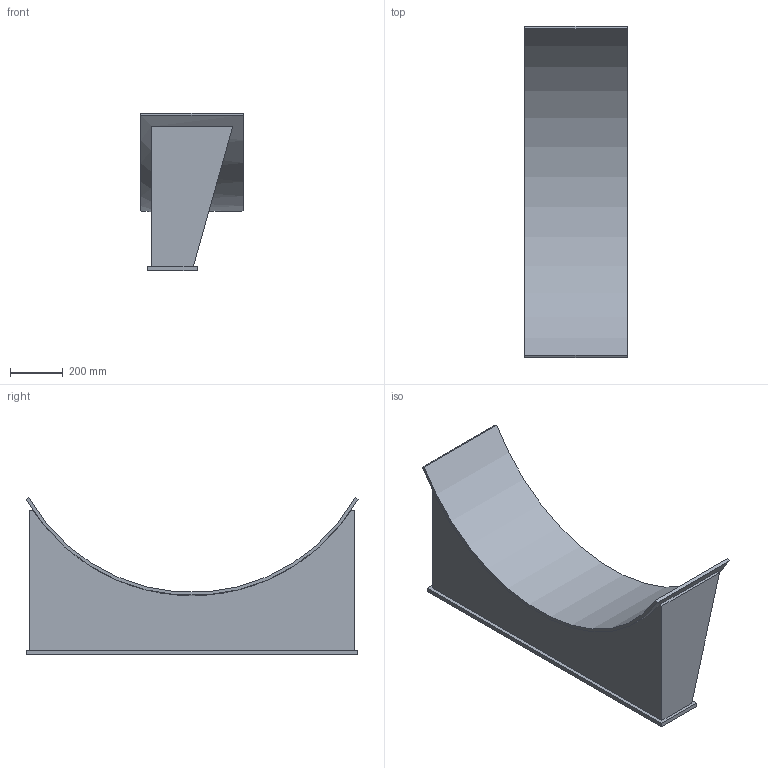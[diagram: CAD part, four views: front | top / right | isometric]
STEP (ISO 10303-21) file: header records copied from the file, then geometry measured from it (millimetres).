
FILE_DESCRIPTION(/* description */ (''),/* implementation_level */ '2;1');
FILE_NAME(/* name */ 'C:\Users\D\Documents\Inventor\HP\JPI\横置きタンクサドル\重荷重用\hc-saddle-hl_1400.stp',/* time_stamp */ '2026-01-27T18:46:11+09:00',/* author */ ('D'),/* organization */ (''),/* preprocessor_version */ 'ST-DEVELOPER v18',/* originating_system */ 'Autodesk Inventor 2020',/* authorisation */ '');
FILE_SCHEMA (('AUTOMOTIVE_DESIGN { 1 0 10303 214 3 1 1 }'));
Length unit declared in the file: millimetre
Products named in the file (1): 200A
Bounding box: 390 x 1262.36 x 597.2 mm (x, y, z)
Volume: 18706258.4 mm3; surface area: 3038970.2 mm2
Topology: 1 solids, 1 shells, 30 faces, 76 edges, 50 vertices
Faces by surface type: plane 26, cylinder 4
Full cylindrical faces by diameter (mm): 27 x2
Entity records: 967 total; most frequent: CARTESIAN_POINT 160, ORIENTED_EDGE 158, DIRECTION 154, EDGE_CURVE 79, LINE 66, VECTOR 66, VERTEX_POINT 50, AXIS2_PLACEMENT_3D 44
